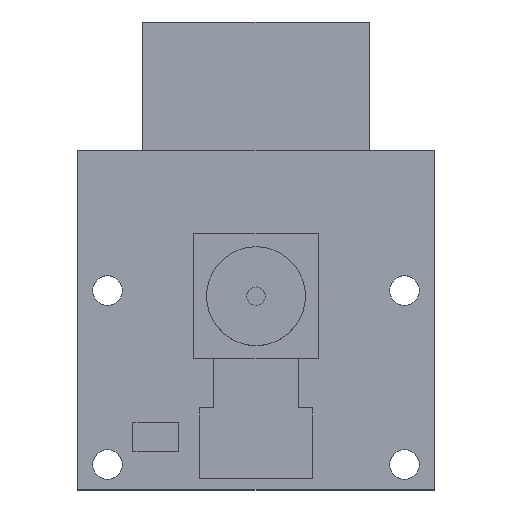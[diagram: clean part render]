
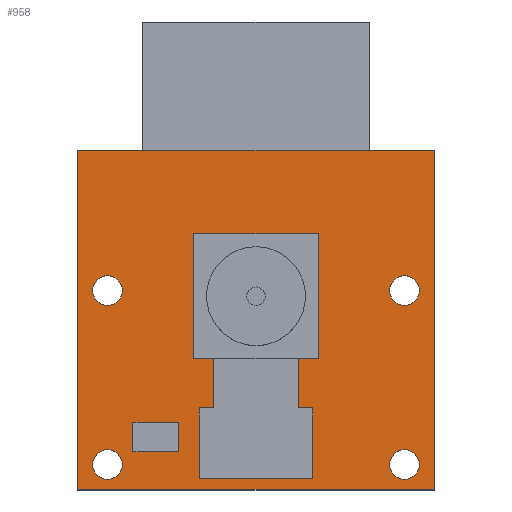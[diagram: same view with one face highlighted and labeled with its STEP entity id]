
A CAD part, top view. The second image highlights one B-rep face of the part: STEP entity #958.
In plain terms, the highlighted planar face has unit normal (0, 0, 1).
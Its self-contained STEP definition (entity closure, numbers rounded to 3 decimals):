
#15=FACE_BOUND('',#134,.T.);
#16=FACE_BOUND('',#135,.T.);
#17=FACE_BOUND('',#136,.T.);
#18=FACE_BOUND('',#137,.T.);
#19=FACE_BOUND('',#138,.T.);
#20=FACE_BOUND('',#139,.T.);
#30=PLANE('',#1035);
#81=FACE_OUTER_BOUND('',#133,.T.);
#133=EDGE_LOOP('',(#673,#674,#675,#676));
#134=EDGE_LOOP('',(#677));
#135=EDGE_LOOP('',(#678));
#136=EDGE_LOOP('',(#679,#680,#681,#682,#683,#684,#685,#686,#687,#688,#689,
#690));
#137=EDGE_LOOP('',(#691,#692,#693,#694));
#138=EDGE_LOOP('',(#695));
#139=EDGE_LOOP('',(#696));
#205=LINE('',#1378,#319);
#206=LINE('',#1380,#320);
#207=LINE('',#1382,#321);
#208=LINE('',#1383,#322);
#209=LINE('',#1386,#323);
#210=LINE('',#1388,#324);
#211=LINE('',#1390,#325);
#212=LINE('',#1392,#326);
#213=LINE('',#1394,#327);
#214=LINE('',#1396,#328);
#215=LINE('',#1398,#329);
#216=LINE('',#1400,#330);
#217=LINE('',#1402,#331);
#218=LINE('',#1404,#332);
#219=LINE('',#1406,#333);
#220=LINE('',#1407,#334);
#221=LINE('',#1410,#335);
#222=LINE('',#1412,#336);
#223=LINE('',#1414,#337);
#224=LINE('',#1415,#338);
#319=VECTOR('',#1135,1000.);
#320=VECTOR('',#1136,1000.);
#321=VECTOR('',#1137,1000.);
#322=VECTOR('',#1138,1000.);
#323=VECTOR('',#1139,1000.);
#324=VECTOR('',#1140,1000.);
#325=VECTOR('',#1141,1000.);
#326=VECTOR('',#1142,1000.);
#327=VECTOR('',#1143,1000.);
#328=VECTOR('',#1144,1000.);
#329=VECTOR('',#1145,1000.);
#330=VECTOR('',#1146,1000.);
#331=VECTOR('',#1147,1000.);
#332=VECTOR('',#1148,1000.);
#333=VECTOR('',#1149,1000.);
#334=VECTOR('',#1150,1000.);
#335=VECTOR('',#1151,1000.);
#336=VECTOR('',#1152,1000.);
#337=VECTOR('',#1153,1000.);
#338=VECTOR('',#1154,1000.);
#424=CIRCLE('',#1024,1.05);
#426=CIRCLE('',#1027,1.05);
#428=CIRCLE('',#1030,1.05);
#430=CIRCLE('',#1033,1.05);
#436=VERTEX_POINT('',#1337);
#438=VERTEX_POINT('',#1343);
#440=VERTEX_POINT('',#1349);
#442=VERTEX_POINT('',#1355);
#451=VERTEX_POINT('',#1376);
#452=VERTEX_POINT('',#1377);
#453=VERTEX_POINT('',#1379);
#454=VERTEX_POINT('',#1381);
#455=VERTEX_POINT('',#1384);
#456=VERTEX_POINT('',#1385);
#457=VERTEX_POINT('',#1387);
#458=VERTEX_POINT('',#1389);
#459=VERTEX_POINT('',#1391);
#460=VERTEX_POINT('',#1393);
#461=VERTEX_POINT('',#1395);
#462=VERTEX_POINT('',#1397);
#463=VERTEX_POINT('',#1399);
#464=VERTEX_POINT('',#1401);
#465=VERTEX_POINT('',#1403);
#466=VERTEX_POINT('',#1405);
#467=VERTEX_POINT('',#1408);
#468=VERTEX_POINT('',#1409);
#469=VERTEX_POINT('',#1411);
#470=VERTEX_POINT('',#1413);
#523=EDGE_CURVE('',#436,#436,#424,.T.);
#526=EDGE_CURVE('',#438,#438,#426,.T.);
#529=EDGE_CURVE('',#440,#440,#428,.T.);
#532=EDGE_CURVE('',#442,#442,#430,.T.);
#541=EDGE_CURVE('',#451,#452,#205,.T.);
#542=EDGE_CURVE('',#453,#451,#206,.T.);
#543=EDGE_CURVE('',#453,#454,#207,.T.);
#544=EDGE_CURVE('',#454,#452,#208,.T.);
#545=EDGE_CURVE('',#455,#456,#209,.T.);
#546=EDGE_CURVE('',#457,#455,#210,.T.);
#547=EDGE_CURVE('',#457,#458,#211,.T.);
#548=EDGE_CURVE('',#459,#458,#212,.T.);
#549=EDGE_CURVE('',#460,#459,#213,.T.);
#550=EDGE_CURVE('',#460,#461,#214,.T.);
#551=EDGE_CURVE('',#461,#462,#215,.T.);
#552=EDGE_CURVE('',#462,#463,#216,.T.);
#553=EDGE_CURVE('',#464,#463,#217,.T.);
#554=EDGE_CURVE('',#464,#465,#218,.T.);
#555=EDGE_CURVE('',#465,#466,#219,.T.);
#556=EDGE_CURVE('',#456,#466,#220,.T.);
#557=EDGE_CURVE('',#467,#468,#221,.T.);
#558=EDGE_CURVE('',#469,#467,#222,.T.);
#559=EDGE_CURVE('',#470,#469,#223,.T.);
#560=EDGE_CURVE('',#468,#470,#224,.T.);
#673=ORIENTED_EDGE('',*,*,#541,.F.);
#674=ORIENTED_EDGE('',*,*,#542,.F.);
#675=ORIENTED_EDGE('',*,*,#543,.T.);
#676=ORIENTED_EDGE('',*,*,#544,.T.);
#677=ORIENTED_EDGE('',*,*,#532,.F.);
#678=ORIENTED_EDGE('',*,*,#523,.T.);
#679=ORIENTED_EDGE('',*,*,#545,.F.);
#680=ORIENTED_EDGE('',*,*,#546,.F.);
#681=ORIENTED_EDGE('',*,*,#547,.T.);
#682=ORIENTED_EDGE('',*,*,#548,.F.);
#683=ORIENTED_EDGE('',*,*,#549,.F.);
#684=ORIENTED_EDGE('',*,*,#550,.T.);
#685=ORIENTED_EDGE('',*,*,#551,.T.);
#686=ORIENTED_EDGE('',*,*,#552,.T.);
#687=ORIENTED_EDGE('',*,*,#553,.F.);
#688=ORIENTED_EDGE('',*,*,#554,.T.);
#689=ORIENTED_EDGE('',*,*,#555,.T.);
#690=ORIENTED_EDGE('',*,*,#556,.F.);
#691=ORIENTED_EDGE('',*,*,#557,.F.);
#692=ORIENTED_EDGE('',*,*,#558,.F.);
#693=ORIENTED_EDGE('',*,*,#559,.F.);
#694=ORIENTED_EDGE('',*,*,#560,.F.);
#695=ORIENTED_EDGE('',*,*,#526,.T.);
#696=ORIENTED_EDGE('',*,*,#529,.F.);
#958=ADVANCED_FACE('',(#81,#15,#16,#17,#18,#19,#20),#30,.T.);
#1024=AXIS2_PLACEMENT_3D('',#1339,#1100,#1101);
#1027=AXIS2_PLACEMENT_3D('',#1345,#1107,#1108);
#1030=AXIS2_PLACEMENT_3D('',#1351,#1114,#1115);
#1033=AXIS2_PLACEMENT_3D('',#1357,#1121,#1122);
#1035=AXIS2_PLACEMENT_3D('',#1375,#1133,#1134);
#1100=DIRECTION('center_axis',(0.,0.,-1.));
#1101=DIRECTION('ref_axis',(1.,0.,0.));
#1107=DIRECTION('center_axis',(0.,0.,-1.));
#1108=DIRECTION('ref_axis',(1.,0.,0.));
#1114=DIRECTION('center_axis',(0.,0.,1.));
#1115=DIRECTION('ref_axis',(1.,0.,0.));
#1121=DIRECTION('center_axis',(0.,0.,1.));
#1122=DIRECTION('ref_axis',(1.,0.,0.));
#1133=DIRECTION('center_axis',(0.,0.,1.));
#1134=DIRECTION('ref_axis',(1.,0.,0.));
#1135=DIRECTION('',(0.,1.,0.));
#1136=DIRECTION('',(-1.,0.,0.));
#1137=DIRECTION('',(0.,1.,0.));
#1138=DIRECTION('',(-1.,0.,0.));
#1139=DIRECTION('',(1.,0.,0.));
#1140=DIRECTION('',(0.,1.,0.));
#1141=DIRECTION('',(1.,0.,0.));
#1142=DIRECTION('',(0.,1.,0.));
#1143=DIRECTION('',(1.,0.,0.));
#1144=DIRECTION('',(0.,1.,0.));
#1145=DIRECTION('',(1.,0.,0.));
#1146=DIRECTION('',(0.,1.,0.));
#1147=DIRECTION('',(1.,0.,0.));
#1148=DIRECTION('',(0.,1.,0.));
#1149=DIRECTION('',(1.,0.,0.));
#1150=DIRECTION('',(0.,1.,0.));
#1151=DIRECTION('',(-1.,0.,0.));
#1152=DIRECTION('',(0.,1.,0.));
#1153=DIRECTION('',(1.,0.,0.));
#1154=DIRECTION('',(0.,-1.,0.));
#1337=CARTESIAN_POINT('',(-11.55,-10.2,0.));
#1339=CARTESIAN_POINT('Origin',(-10.5,-10.2,0.));
#1343=CARTESIAN_POINT('',(9.45,2.1,0.));
#1345=CARTESIAN_POINT('Origin',(10.5,2.1,0.));
#1349=CARTESIAN_POINT('',(-11.55,2.1,0.));
#1351=CARTESIAN_POINT('Origin',(-10.5,2.1,0.));
#1355=CARTESIAN_POINT('',(9.45,-10.2,0.));
#1357=CARTESIAN_POINT('Origin',(10.5,-10.2,0.));
#1375=CARTESIAN_POINT('Origin',(0.,0.,0.));
#1376=CARTESIAN_POINT('',(-12.6,-12.,0.));
#1377=CARTESIAN_POINT('',(-12.6,12.,0.));
#1378=CARTESIAN_POINT('',(-12.6,0.,0.));
#1379=CARTESIAN_POINT('',(12.6,-12.,0.));
#1380=CARTESIAN_POINT('',(0.,-12.,0.));
#1381=CARTESIAN_POINT('',(12.6,12.,0.));
#1382=CARTESIAN_POINT('',(12.6,0.,0.));
#1383=CARTESIAN_POINT('',(0.,12.,0.));
#1384=CARTESIAN_POINT('',(3.,-2.7,0.));
#1385=CARTESIAN_POINT('',(4.4,-2.7,0.));
#1386=CARTESIAN_POINT('',(0.,-2.7,0.));
#1387=CARTESIAN_POINT('',(3.,-6.2,0.));
#1388=CARTESIAN_POINT('',(3.,0.,0.));
#1389=CARTESIAN_POINT('',(4.,-6.2,0.));
#1390=CARTESIAN_POINT('',(0.,-6.2,0.));
#1391=CARTESIAN_POINT('',(4.,-11.2,0.));
#1392=CARTESIAN_POINT('',(4.,0.,0.));
#1393=CARTESIAN_POINT('',(-4.,-11.2,0.));
#1394=CARTESIAN_POINT('',(0.,-11.2,0.));
#1395=CARTESIAN_POINT('',(-4.,-6.2,0.));
#1396=CARTESIAN_POINT('',(-4.,0.,0.));
#1397=CARTESIAN_POINT('',(-3.,-6.2,0.));
#1398=CARTESIAN_POINT('',(0.,-6.2,0.));
#1399=CARTESIAN_POINT('',(-3.,-2.7,0.));
#1400=CARTESIAN_POINT('',(-3.,0.,0.));
#1401=CARTESIAN_POINT('',(-4.4,-2.7,0.));
#1402=CARTESIAN_POINT('',(0.,-2.7,0.));
#1403=CARTESIAN_POINT('',(-4.4,6.1,0.));
#1404=CARTESIAN_POINT('',(-4.4,0.,0.));
#1405=CARTESIAN_POINT('',(4.4,6.1,0.));
#1406=CARTESIAN_POINT('',(0.,6.1,0.));
#1407=CARTESIAN_POINT('',(4.4,0.,0.));
#1408=CARTESIAN_POINT('',(-5.5,-7.2,0.));
#1409=CARTESIAN_POINT('',(-8.7,-7.2,0.));
#1410=CARTESIAN_POINT('',(-8.7,-7.2,0.));
#1411=CARTESIAN_POINT('',(-5.5,-9.3,0.));
#1412=CARTESIAN_POINT('',(-5.5,-9.3,0.));
#1413=CARTESIAN_POINT('',(-8.7,-9.3,0.));
#1414=CARTESIAN_POINT('',(-8.7,-9.3,0.));
#1415=CARTESIAN_POINT('',(-8.7,-9.3,0.));
